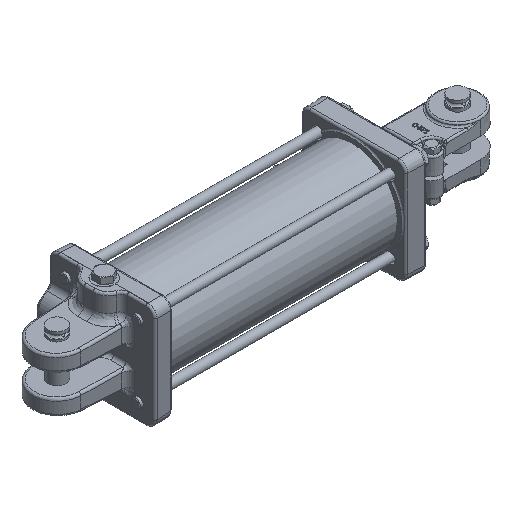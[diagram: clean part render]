
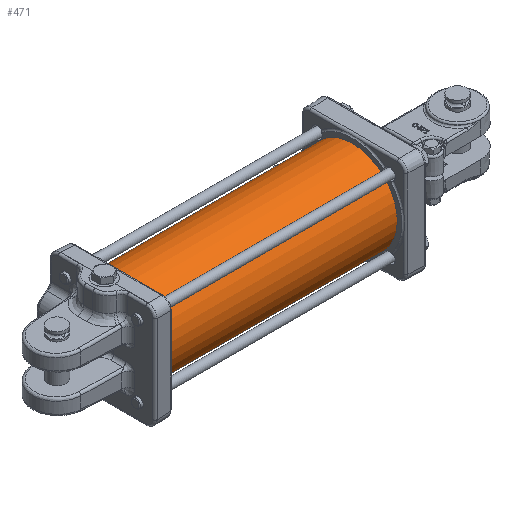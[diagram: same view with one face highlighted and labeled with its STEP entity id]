
A CAD part, isometric view. The second image highlights one B-rep face of the part: STEP entity #471.
In plain terms, the highlighted cylindrical face has radius 63.5 mm (diameter 127 mm), a full revolution.
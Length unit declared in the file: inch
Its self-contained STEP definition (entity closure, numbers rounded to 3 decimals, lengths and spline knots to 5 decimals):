
#210=CARTESIAN_POINT('',(-1.029,2.49941,0.0545));
#211=VERTEX_POINT('',#210);
#212=CARTESIAN_POINT('',(-1.029,2.49941,0.0545));
#213=CARTESIAN_POINT('',(-1.03584,2.49941,0.0545));
#214=CARTESIAN_POINT('',(-1.04314,2.49944,0.05313));
#215=CARTESIAN_POINT('',(-1.05657,2.49955,0.04757));
#216=CARTESIAN_POINT('',(-1.0627,2.49963,0.04338));
#217=CARTESIAN_POINT('',(-1.07238,2.49978,0.0337));
#218=CARTESIAN_POINT('',(-1.07657,2.49986,0.02757));
#219=CARTESIAN_POINT('',(-1.08213,2.49997,0.01414));
#220=CARTESIAN_POINT('',(-1.0835,2.5,0.00684));
#221=CARTESIAN_POINT('',(-1.0835,2.5,-0.00684));
#222=CARTESIAN_POINT('',(-1.08213,2.49997,-0.01414));
#223=CARTESIAN_POINT('',(-1.07657,2.49986,-0.02757));
#224=CARTESIAN_POINT('',(-1.07238,2.49978,-0.0337));
#225=CARTESIAN_POINT('',(-1.0627,2.49963,-0.04338));
#226=CARTESIAN_POINT('',(-1.05657,2.49955,-0.04757));
#227=CARTESIAN_POINT('',(-1.04314,2.49944,-0.05313));
#228=CARTESIAN_POINT('',(-1.03584,2.49941,-0.0545));
#229=CARTESIAN_POINT('',(-1.02216,2.49941,-0.0545));
#230=CARTESIAN_POINT('',(-1.01486,2.49944,-0.05313));
#231=CARTESIAN_POINT('',(-1.00143,2.49955,-0.04757));
#232=CARTESIAN_POINT('',(-0.9953,2.49963,-0.04338));
#233=CARTESIAN_POINT('',(-0.98562,2.49978,-0.0337));
#234=CARTESIAN_POINT('',(-0.98143,2.49986,-0.02757));
#235=CARTESIAN_POINT('',(-0.97587,2.49997,-0.01414));
#236=CARTESIAN_POINT('',(-0.9745,2.5,-0.00684));
#237=CARTESIAN_POINT('',(-0.9745,2.5,0.00684));
#238=CARTESIAN_POINT('',(-0.97587,2.49997,0.01414));
#239=CARTESIAN_POINT('',(-0.98143,2.49986,0.02757));
#240=CARTESIAN_POINT('',(-0.98562,2.49978,0.0337));
#241=CARTESIAN_POINT('',(-0.9953,2.49963,0.04338));
#242=CARTESIAN_POINT('',(-1.00143,2.49955,0.04757));
#243=CARTESIAN_POINT('',(-1.01486,2.49944,0.05313));
#244=CARTESIAN_POINT('',(-1.02216,2.49941,0.0545));
#245=CARTESIAN_POINT('',(-1.029,2.49941,0.0545));
#246=B_SPLINE_CURVE_WITH_KNOTS('',3,(#212,#213,#214,#215,#216,#217,#218,#219,#220,#221,#222,#223,#224,#225,#226,#227,#228,#229,#230,#231,#232,#233,#234,#235,#236,#237,#238,#239,#240,#241,#242,#243,#244,#245),.UNSPECIFIED.,.T.,.U.,(4,2,2,2,2,2,2,2,2,2,2,2,2,2,2,2,4),(0.0,0.05215,0.10429,0.15644,0.20859,0.26073,0.31288,0.36503,0.41717,0.46932,0.52147,0.57361,0.62576,0.6779,0.73005,0.7822,0.83434),.UNSPECIFIED.);
#247=EDGE_CURVE('',#211,#211,#246,.T.);
#298=CARTESIAN_POINT('',(-1.409,2.49981,0.031));
#299=VERTEX_POINT('',#298);
#300=CARTESIAN_POINT('',(-1.409,2.49981,0.031));
#301=CARTESIAN_POINT('',(-1.41289,2.49981,0.031));
#302=CARTESIAN_POINT('',(-1.41704,2.49982,0.03022));
#303=CARTESIAN_POINT('',(-1.42468,2.49985,0.02706));
#304=CARTESIAN_POINT('',(-1.42817,2.49988,0.02467));
#305=CARTESIAN_POINT('',(-1.43367,2.49993,0.01917));
#306=CARTESIAN_POINT('',(-1.43606,2.49995,0.01568));
#307=CARTESIAN_POINT('',(-1.43922,2.49999,0.00804));
#308=CARTESIAN_POINT('',(-1.44,2.5,0.00389));
#309=CARTESIAN_POINT('',(-1.44,2.5,-0.00389));
#310=CARTESIAN_POINT('',(-1.43922,2.49999,-0.00804));
#311=CARTESIAN_POINT('',(-1.43606,2.49995,-0.01568));
#312=CARTESIAN_POINT('',(-1.43367,2.49993,-0.01917));
#313=CARTESIAN_POINT('',(-1.42817,2.49988,-0.02467));
#314=CARTESIAN_POINT('',(-1.42468,2.49985,-0.02706));
#315=CARTESIAN_POINT('',(-1.41704,2.49982,-0.03022));
#316=CARTESIAN_POINT('',(-1.41289,2.49981,-0.031));
#317=CARTESIAN_POINT('',(-1.40511,2.49981,-0.031));
#318=CARTESIAN_POINT('',(-1.40096,2.49982,-0.03022));
#319=CARTESIAN_POINT('',(-1.39332,2.49985,-0.02706));
#320=CARTESIAN_POINT('',(-1.38983,2.49988,-0.02467));
#321=CARTESIAN_POINT('',(-1.38433,2.49993,-0.01917));
#322=CARTESIAN_POINT('',(-1.38194,2.49995,-0.01568));
#323=CARTESIAN_POINT('',(-1.37878,2.49999,-0.00804));
#324=CARTESIAN_POINT('',(-1.378,2.5,-0.00389));
#325=CARTESIAN_POINT('',(-1.378,2.5,0.00389));
#326=CARTESIAN_POINT('',(-1.37878,2.49999,0.00804));
#327=CARTESIAN_POINT('',(-1.38194,2.49995,0.01568));
#328=CARTESIAN_POINT('',(-1.38433,2.49993,0.01917));
#329=CARTESIAN_POINT('',(-1.38983,2.49988,0.02467));
#330=CARTESIAN_POINT('',(-1.39332,2.49985,0.02706));
#331=CARTESIAN_POINT('',(-1.40096,2.49982,0.03022));
#332=CARTESIAN_POINT('',(-1.40511,2.49981,0.031));
#333=CARTESIAN_POINT('',(-1.409,2.49981,0.031));
#334=B_SPLINE_CURVE_WITH_KNOTS('',3,(#300,#301,#302,#303,#304,#305,#306,#307,#308,#309,#310,#311,#312,#313,#314,#315,#316,#317,#318,#319,#320,#321,#322,#323,#324,#325,#326,#327,#328,#329,#330,#331,#332,#333),.UNSPECIFIED.,.T.,.U.,(4,2,2,2,2,2,2,2,2,2,2,2,2,2,2,2,4),(0.0,0.02966,0.05932,0.08898,0.11864,0.1483,0.17796,0.20762,0.23729,0.26695,0.29661,0.32627,0.35593,0.38559,0.41525,0.44491,0.47457),.UNSPECIFIED.);
#335=EDGE_CURVE('',#299,#299,#334,.T.);
#345=CARTESIAN_POINT('',(0.,2.5,0.0));
#346=VERTEX_POINT('',#345);
#347=CARTESIAN_POINT('',(0.,0.0,0.0));
#348=DIRECTION('',(1.0,0.0,0.0));
#349=DIRECTION('',(0.0,1.0,0.0));
#350=AXIS2_PLACEMENT_3D('',#347,#348,#349);
#351=CIRCLE('',#350,2.5);
#352=EDGE_CURVE('',#346,#346,#351,.T.);
#439=CARTESIAN_POINT('',(-12.844,2.5,0.0));
#440=VERTEX_POINT('',#439);
#441=CARTESIAN_POINT('',(-12.844,0.0,0.0));
#442=DIRECTION('',(1.0,0.0,0.0));
#443=DIRECTION('',(0.0,1.0,0.0));
#444=AXIS2_PLACEMENT_3D('',#441,#442,#443);
#445=CIRCLE('',#444,2.5);
#446=EDGE_CURVE('',#440,#440,#445,.T.);
#454=CARTESIAN_POINT('',(-6.422,0.0,0.0));
#455=DIRECTION('',(1.0,0.0,0.0));
#456=DIRECTION('',(0.0,1.0,0.0));
#457=AXIS2_PLACEMENT_3D('',#454,#455,#456);
#458=CYLINDRICAL_SURFACE('',#457,2.5);
#459=ORIENTED_EDGE('',*,*,#352,.F.);
#460=EDGE_LOOP('',(#459));
#461=FACE_OUTER_BOUND('',#460,.T.);
#462=ORIENTED_EDGE('',*,*,#247,.T.);
#463=EDGE_LOOP('',(#462));
#464=FACE_BOUND('',#463,.T.);
#465=ORIENTED_EDGE('',*,*,#335,.T.);
#466=EDGE_LOOP('',(#465));
#467=FACE_BOUND('',#466,.T.);
#468=ORIENTED_EDGE('',*,*,#446,.T.);
#469=EDGE_LOOP('',(#468));
#470=FACE_BOUND('',#469,.T.);
#471=ADVANCED_FACE('',(#461,#464,#467,#470),#458,.T.);
